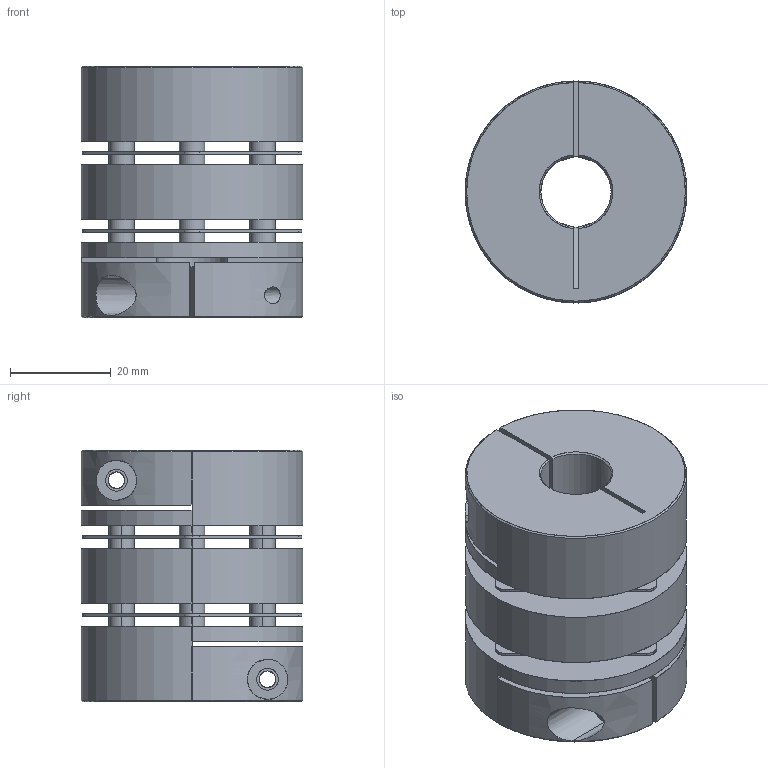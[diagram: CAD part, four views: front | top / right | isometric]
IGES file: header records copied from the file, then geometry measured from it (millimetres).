
Start section: SolidWorks IGES file using analytic representation for surfaces
Bounding box: 44 x 44 x 50 mm (x, y, z)
Surface area: 23306.8 mm2 (no closed solid volume)
Topology: 0 solids, 0 shells, 130 faces, 3050 edges, 3050 vertices
Faces by surface type: revolution 90, bspline 40
